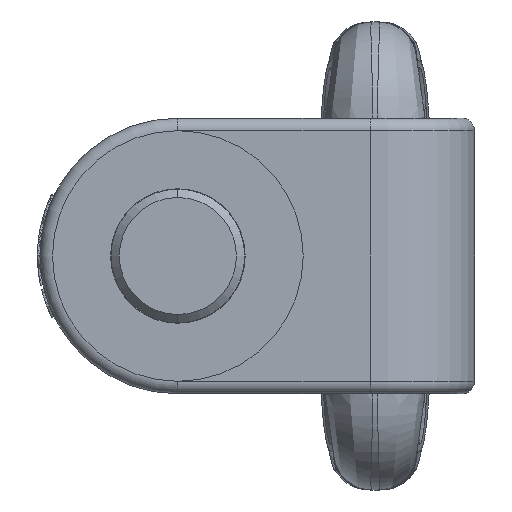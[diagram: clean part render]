
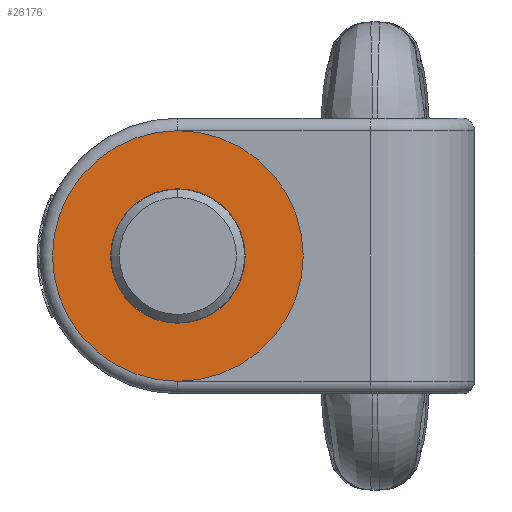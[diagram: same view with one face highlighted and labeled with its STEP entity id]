
A CAD part, front view. The second image highlights one B-rep face of the part: STEP entity #26176.
In plain terms, the highlighted planar face has unit normal (0, -1, 0).
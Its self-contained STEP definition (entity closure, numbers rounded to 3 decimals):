
#26005=CARTESIAN_POINT('',(0.,-17.9,0.));
#26006=DIRECTION('',(0.,1.,0.));
#26007=DIRECTION('',(1.,0.,0.));
#26008=AXIS2_PLACEMENT_3D('',#26005,#26006,#26007);
#26010=CARTESIAN_POINT('',(0.,-17.9,0.));
#26011=DIRECTION('',(0.,-1.,0.));
#26012=DIRECTION('',(1.,0.,0.));
#26013=AXIS2_PLACEMENT_3D('',#26010,#26011,#26012);
#26015=CARTESIAN_POINT('',(0.,-17.9,0.));
#26016=DIRECTION('',(0.,-1.,0.));
#26017=DIRECTION('',(1.,0.,0.));
#26018=AXIS2_PLACEMENT_3D('',#26015,#26016,#26017);
#26028=CARTESIAN_POINT('',(0.,-17.9,0.));
#26029=DIRECTION('',(0.,1.,0.));
#26030=DIRECTION('',(1.,0.,0.));
#26031=AXIS2_PLACEMENT_3D('',#26028,#26029,#26030);
#26100=CARTESIAN_POINT('',(8.05,-17.9,0.));
#26102=VERTEX_POINT('',#26100);
#26103=CARTESIAN_POINT('',(15.,-17.9,0.));
#26105=VERTEX_POINT('',#26103);
#26116=CARTESIAN_POINT('',(-8.05,-17.9,0.));
#26118=VERTEX_POINT('',#26116);
#26119=CARTESIAN_POINT('',(-15.,-17.9,0.));
#26121=VERTEX_POINT('',#26119);
#26161=CARTESIAN_POINT('',(0.,-17.9,0.));
#26162=DIRECTION('',(0.,-1.,0.));
#26163=DIRECTION('',(-1.,0.,0.));
#26164=AXIS2_PLACEMENT_3D('',#26161,#26162,#26163);
#26165=PLANE('',#26164);
#26167=ORIENTED_EDGE('',*,*,#26166,.F.);
#26169=ORIENTED_EDGE('',*,*,#26168,.T.);
#26170=EDGE_LOOP('',(#26167,#26169));
#26171=FACE_OUTER_BOUND('',#26170,.F.);
#26172=ORIENTED_EDGE('',*,*,#26153,.F.);
#26173=ORIENTED_EDGE('',*,*,#26142,.T.);
#26174=EDGE_LOOP('',(#26172,#26173));
#26175=FACE_BOUND('',#26174,.F.);
#26176=ADVANCED_FACE('',(#26171,#26175),#26165,.T.);
#26009=CIRCLE('',#26008,8.05);
#26014=CIRCLE('',#26013,8.05);
#26019=CIRCLE('',#26018,15.);
#26032=CIRCLE('',#26031,15.);
#26142=EDGE_CURVE('',#26102,#26118,#26014,.T.);
#26153=EDGE_CURVE('',#26102,#26118,#26009,.T.);
#26166=EDGE_CURVE('',#26105,#26121,#26019,.T.);
#26168=EDGE_CURVE('',#26105,#26121,#26032,.T.);
